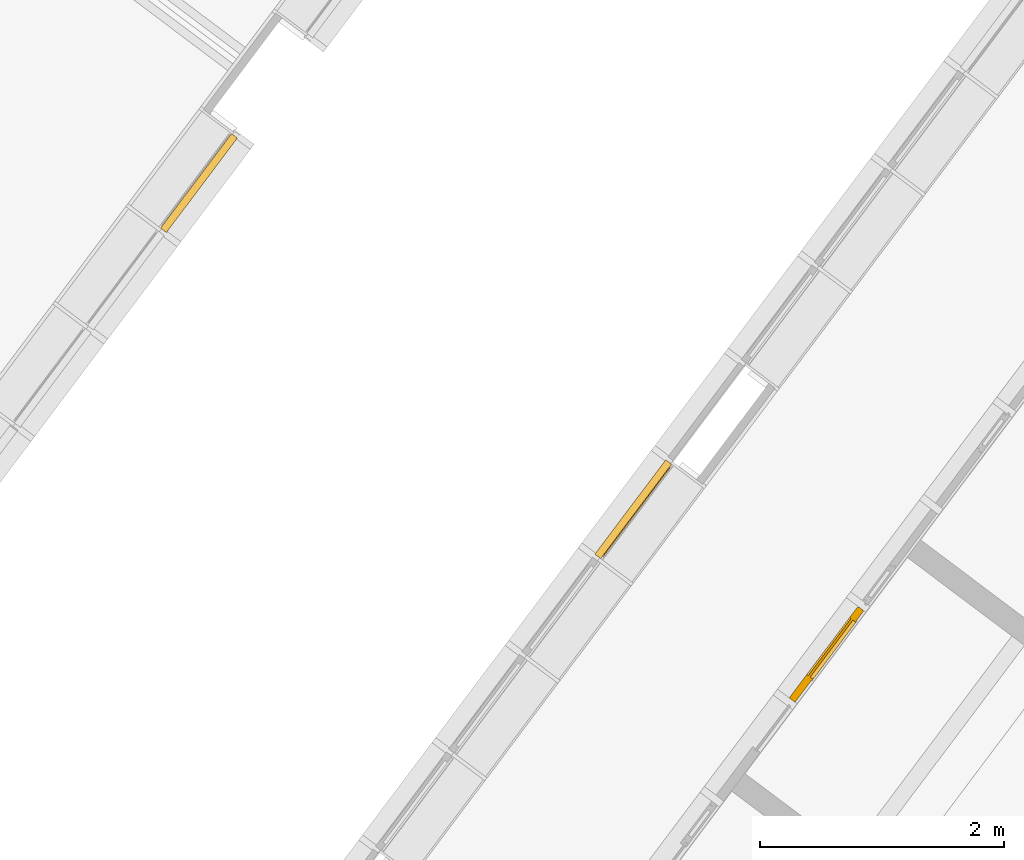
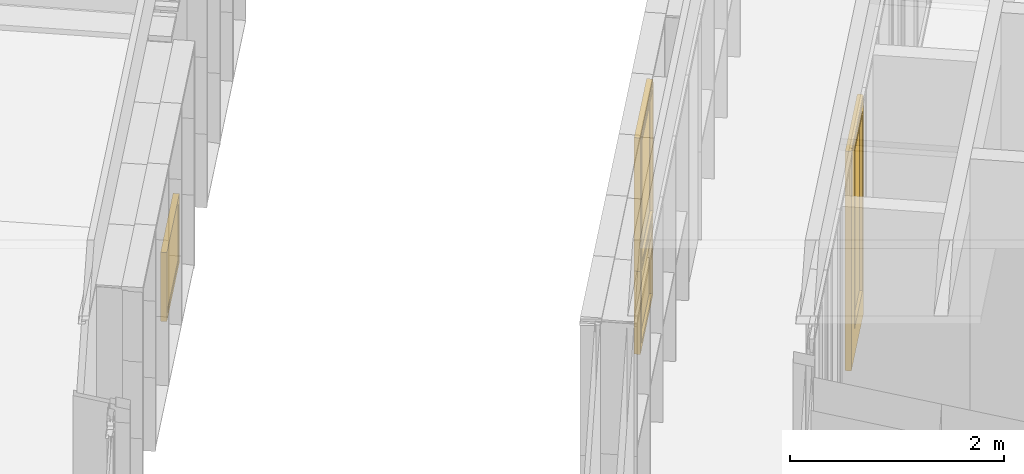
# One storey, part 164 of 243: 3 windows, 1 door, 3 elements without a shape of their own.
"""IFC2X3 building model written with IfcOpenShell, lengths in metres."""

from ifc_helpers import new_model, entity, si_unit, converted_unit, derived_unit, direction, frame, origin, place, context, subcontext, project, spatial, faceted_brep, source, transform, mapped, material, material_list, type_object, type_shapes, element, aggregate, save


model = new_model("IFC2X3")

# Units and contexts
model_context = context("Model", 3, precision=1e-05, world=origin(), true_north=direction((6.123031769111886e-17, 1.0)))
body_context = subcontext(model_context, "Body", "Model", "MODEL_VIEW")
ifc_project = project(units=[si_unit("LENGTHUNIT", "METRE"), si_unit("AREAUNIT", "SQUARE_METRE"), si_unit("VOLUMEUNIT", "CUBIC_METRE"), converted_unit("PLANEANGLEUNIT", "DEGREE", entity("IfcRatioMeasure", 0.017453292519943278), si_unit("PLANEANGLEUNIT", "RADIAN"), dimensions=[0, 0, 0, 0, 0, 0, 0]), si_unit("MASSUNIT", "GRAM", prefix="KILO"), derived_unit("MASSDENSITYUNIT", [(si_unit("MASSUNIT", "GRAM", prefix="KILO"), 1), (si_unit("LENGTHUNIT", "METRE"), -3)]), derived_unit("IONCONCENTRATIONUNIT", [(si_unit("MASSUNIT", "GRAM", prefix="KILO"), 1), (si_unit("LENGTHUNIT", "METRE"), -3)]), derived_unit("MOMENTOFINERTIAUNIT", [(si_unit("LENGTHUNIT", "METRE"), 4)]), si_unit("TIMEUNIT", "SECOND"), si_unit("FREQUENCYUNIT", "HERTZ"), si_unit("THERMODYNAMICTEMPERATUREUNIT", "DEGREE_CELSIUS"), derived_unit("THERMALTRANSMITTANCEUNIT", [(si_unit("MASSUNIT", "GRAM", prefix="KILO"), 1), (si_unit("THERMODYNAMICTEMPERATUREUNIT", "KELVIN"), -1), (si_unit("TIMEUNIT", "SECOND"), -3)]), derived_unit("THERMALCONDUCTANCEUNIT", [(si_unit("MASSUNIT", "GRAM", prefix="KILO"), 1), (si_unit("THERMODYNAMICTEMPERATUREUNIT", "KELVIN"), -1), (si_unit("TIMEUNIT", "SECOND"), -3), (si_unit("LENGTHUNIT", "METRE"), 1)]), derived_unit("VOLUMETRICFLOWRATEUNIT", [(si_unit("LENGTHUNIT", "METRE"), 3), (si_unit("TIMEUNIT", "SECOND"), -1)]), derived_unit("MASSFLOWRATEUNIT", [(si_unit("MASSUNIT", "GRAM", prefix="KILO"), 1), (si_unit("TIMEUNIT", "SECOND"), -1)]), derived_unit("ROTATIONALFREQUENCYUNIT", [(si_unit("TIMEUNIT", "SECOND"), -1)]), si_unit("ELECTRICCURRENTUNIT", "AMPERE"), si_unit("ELECTRICVOLTAGEUNIT", "VOLT"), si_unit("POWERUNIT", "WATT"), si_unit("FORCEUNIT", "NEWTON", prefix="KILO"), si_unit("ILLUMINANCEUNIT", "LUX"), si_unit("LUMINOUSFLUXUNIT", "LUMEN"), si_unit("LUMINOUSINTENSITYUNIT", "CANDELA"), derived_unit("USERDEFINED", [(si_unit("MASSUNIT", "GRAM", prefix="KILO"), -1), (si_unit("LENGTHUNIT", "METRE"), -2), (si_unit("TIMEUNIT", "SECOND"), 3), (si_unit("LUMINOUSFLUXUNIT", "LUMEN"), 1)]), derived_unit("USERDEFINED", [(si_unit("MASSUNIT", "GRAM", prefix="KILO"), 1), (si_unit("TIMEUNIT", "SECOND"), -3), (si_unit("LENGTHUNIT", "METRE"), 3), (si_unit("ELECTRICCURRENTUNIT", "AMPERE"), -2)]), derived_unit("SOUNDPOWERUNIT", [(si_unit("MASSUNIT", "GRAM", prefix="KILO"), 1), (si_unit("TIMEUNIT", "SECOND"), -3), (si_unit("LENGTHUNIT", "METRE"), 2)]), derived_unit("SOUNDPRESSUREUNIT", [(si_unit("MASSUNIT", "GRAM", prefix="KILO"), 1), (si_unit("LENGTHUNIT", "METRE"), -1), (si_unit("TIMEUNIT", "SECOND"), -2)]), derived_unit("LINEARVELOCITYUNIT", [(si_unit("LENGTHUNIT", "METRE"), 1), (si_unit("TIMEUNIT", "SECOND"), -1)]), si_unit("PRESSUREUNIT", "PASCAL"), derived_unit("USERDEFINED", [(si_unit("MASSUNIT", "GRAM", prefix="KILO"), 1), (si_unit("LENGTHUNIT", "METRE"), -2), (si_unit("TIMEUNIT", "SECOND"), -2)]), derived_unit("LINEARFORCEUNIT", [(si_unit("MASSUNIT", "GRAM", prefix="KILO"), 1), (si_unit("TIMEUNIT", "SECOND"), -2)]), derived_unit("PLANARFORCEUNIT", [(si_unit("MASSUNIT", "GRAM", prefix="KILO"), 1), (si_unit("LENGTHUNIT", "METRE"), -1), (si_unit("TIMEUNIT", "SECOND"), -2)]), derived_unit("SPECIFICHEATCAPACITYUNIT", [(si_unit("THERMODYNAMICTEMPERATUREUNIT", "KELVIN"), -1), (si_unit("LENGTHUNIT", "METRE"), 2), (si_unit("TIMEUNIT", "SECOND"), -2)]), derived_unit("HEATINGVALUEUNIT", [(si_unit("LENGTHUNIT", "METRE"), 2), (si_unit("TIMEUNIT", "SECOND"), -2)]), derived_unit("VAPORPERMEABILITYUNIT", [(si_unit("LENGTHUNIT", "METRE"), -1), (si_unit("TIMEUNIT", "SECOND"), 1)]), derived_unit("DYNAMICVISCOSITYUNIT", [(si_unit("MASSUNIT", "GRAM", prefix="KILO"), 1), (si_unit("TIMEUNIT", "SECOND"), -1), (si_unit("LENGTHUNIT", "METRE"), -1)]), derived_unit("THERMALEXPANSIONCOEFFICIENTUNIT", [(si_unit("THERMODYNAMICTEMPERATUREUNIT", "KELVIN"), -1)]), derived_unit("MODULUSOFELASTICITYUNIT", [(si_unit("MASSUNIT", "GRAM", prefix="KILO"), 1), (si_unit("LENGTHUNIT", "METRE"), -1), (si_unit("TIMEUNIT", "SECOND"), -2)]), derived_unit("ISOTHERMALMOISTURECAPACITYUNIT", [(si_unit("LENGTHUNIT", "METRE"), 3), (si_unit("MASSUNIT", "GRAM", prefix="KILO"), -1)]), derived_unit("MOISTUREDIFFUSIVITYUNIT", [(si_unit("TIMEUNIT", "SECOND"), -1), (si_unit("LENGTHUNIT", "METRE"), 2)])], contexts=[model_context])

# Site, building, storey
site_placement = place(None, frame((0.0, 0.0, 235.0), z_axis=(0.0, 0.0, 1.0), x_axis=(-0.7996477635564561, 0.6004693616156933, 0.0)))
site = spatial("IfcSite", under=ifc_project, at=site_placement, Name="Default", CompositionType="ELEMENT")
building_placement = place(site_placement, origin())
building = spatial("IfcBuilding", under=site, at=building_placement, CompositionType="ELEMENT")
storey_placement = place(building_placement, origin())
storey = spatial("IfcBuildingStorey", under=building, at=storey_placement, Name="P0- Escola", CompositionType="ELEMENT", Elevation=0.0)

# Curtain wall, door
curtain_wall_type_1 = type_object("IfcCurtainWallType", Name="Muro cortina:MC- INT- a2", PredefinedType="NOTDEFINED")
curtain_wall_1_placement = place(storey_placement, origin())
curtain_wall_1 = element("IfcCurtainWall", 1, at=curtain_wall_1_placement, inside=storey, type_object=curtain_wall_type_1, Name="Muro cortina:MC- INT- a2", ObjectType="Muro cortina:MC- INT- a2")
ifc_material_1 = material(Name="_Fusta massisa- T1")
ifc_material_2 = material(Name="_Vidre")
ifc_material_list_1 = material_list([ifc_material_1, ifc_material_2])
door_style = type_object("IfcDoorStyle", Name="MC- Fusta- conjunt porta:MC- Fusta- conjunt Porta aules", ConstructionType="NOTDEFINED", OperationType="NOTDEFINED", ParameterTakesPrecedence=False, Sizeable=False, material=ifc_material_list_1)
shared_shape_1 = source(origin(), body_context, "Body", "Brep", [
    faceted_brep([(-0.24500000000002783, -0.024999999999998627, 2.3799999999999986), (-0.24500000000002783, 0.0050000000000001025, 2.3799999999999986), (-0.24500000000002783, 0.0050000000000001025, 0.3299999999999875), (-0.24500000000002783, -0.024999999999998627, 0.3299999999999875), (0.3700000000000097, 0.0050000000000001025, 0.3299999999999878), (0.3700000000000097, -0.024999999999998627, 0.3299999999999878), (0.37000000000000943, 0.0050000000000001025, 2.3799999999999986), (0.37000000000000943, -0.024999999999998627, 2.3799999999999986), (-0.23000000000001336, 0.0050000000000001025, 2.3650000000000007), (-0.23000000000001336, 0.0050000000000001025, 0.34499999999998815), (0.35499999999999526, 0.0050000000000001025, 0.3449999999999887), (0.35499999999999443, 0.0050000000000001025, 2.3650000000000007), (-0.23000000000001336, -0.024999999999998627, 2.3650000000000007), (0.35499999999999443, -0.024999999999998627, 2.3650000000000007), (0.35499999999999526, -0.024999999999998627, 0.3449999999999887), (-0.23000000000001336, -0.024999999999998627, 0.34499999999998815)], [[[0, 1, 2, 3]], [[3, 2, 4, 5]], [[5, 4, 6, 7]], [[8, 9, 10, 11], [1, 6, 4, 2]], [[12, 13, 14, 15], [0, 3, 5, 7]], [[15, 9, 8, 12]], [[14, 10, 9, 15]], [[13, 11, 10, 14]], [[7, 6, 1, 0]], [[12, 8, 11, 13]]], outer=[[True], [True], [True], [False, True], [False, True], [True], [True], [True], [True], [True]]),
    faceted_brep([(-0.43999999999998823, 0.03999999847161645, 0.0), (0.43999999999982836, 0.039999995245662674, 0.0), (0.43999999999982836, 0.009999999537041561, 0.0), (0.45499999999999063, 0.009999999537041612, 0.0), (0.45499999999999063, -0.019999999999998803, 0.0), (-0.4550000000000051, -0.01999999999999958, 0.0), (-0.4550000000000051, 0.0099999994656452, 0.0), (-0.43999999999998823, 0.0099999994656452, 0.0), (-0.4550000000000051, -0.01999999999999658, 2.4899999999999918), (0.45499999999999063, -0.01999999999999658, 2.4899999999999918), (-0.24500000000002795, -0.019999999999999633, 0.3300000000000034), (-0.24500000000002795, -0.01999999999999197, 2.3799999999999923), (0.37000000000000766, -0.019999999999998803, 2.3799999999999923), (0.37000000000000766, -0.019999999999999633, 0.3300000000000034), (-0.45500000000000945, 0.0099999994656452, 2.4899999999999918), (0.45499999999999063, 0.0099999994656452, 2.4899999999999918), (-0.43999999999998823, 0.03999999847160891, 2.4749999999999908), (-0.43999999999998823, 0.0099999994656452, 2.4749999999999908), (0.43999999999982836, 0.0099999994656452, 2.4749999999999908), (0.43999999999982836, 0.039999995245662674, 2.4749999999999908), (0.3549999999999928, 0.03999999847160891, 0.3450000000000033), (0.3549999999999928, 0.03999999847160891, 2.364999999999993), (-0.2300000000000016, 0.039999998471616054, 2.364999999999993), (-0.2300000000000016, 0.03999999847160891, 0.3450000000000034), (-0.2300000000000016, 0.025000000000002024, 0.3450000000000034), (0.3549999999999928, 0.025000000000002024, 0.3450000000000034), (-0.2300000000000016, 0.025000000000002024, 2.364999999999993), (0.3549999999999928, 0.024999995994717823, 2.364999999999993), (0.37000000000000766, 0.025000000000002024, 0.3300000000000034), (0.37000000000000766, 0.025000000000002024, 2.3799999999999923), (-0.24500000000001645, 0.025000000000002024, 2.3799999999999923), (-0.24500000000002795, 0.025000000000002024, 0.3300000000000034), (-0.24500000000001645, 0.024999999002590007, 0.3300000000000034), (-0.24500000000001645, 0.024999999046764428, 2.3799999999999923), (0.3549999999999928, 0.03999999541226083, 2.364999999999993), (-0.2300000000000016, 0.024999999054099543, 2.364999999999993), (0.37000000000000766, 0.02499999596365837, 2.3799999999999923)], [[[0, 1, 2, 3, 4, 5, 6, 7]], [[8, 5, 4, 9], [10, 11, 12, 13]], [[8, 14, 6, 5]], [[15, 9, 4, 3]], [[16, 0, 7, 17]], [[14, 15, 3, 2, 18, 17, 7, 6]], [[18, 2, 1, 19]], [[20, 21, 22, 23], [16, 19, 1, 0]], [[23, 24, 25, 20]], [[23, 22, 26, 24]], [[25, 27, 21, 20]], [[24, 26, 27, 25], [28, 29, 30, 31]], [[13, 28, 32, 10]], [[31, 33, 11, 10]], [[13, 12, 29, 28]], [[9, 15, 14, 8]], [[17, 18, 19, 16]], [[34, 27, 35, 22]], [[11, 30, 36, 12]]], outer=[[True], [True, False], [True], [True], [True], [True], [True], [False, True], [True], [True], [True], [False, True], [True], [True], [True], [True], [True], [True], [True]]),
    faceted_brep([(0.37000000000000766, 0.024999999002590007, 0.3300000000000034), (0.37000000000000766, 0.0050000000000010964, 0.3300000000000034), (-0.2450000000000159, 0.0050000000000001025, 0.3300000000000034), (-0.2450000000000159, 0.024999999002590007, 0.3300000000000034), (0.37000000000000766, 0.024999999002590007, 2.380000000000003), (-0.2450000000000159, 0.024999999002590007, 2.380000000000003), (-0.2450000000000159, 0.0050000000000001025, 2.380000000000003), (0.37000000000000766, 0.0050000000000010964, 2.380000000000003)], [[[0, 1, 2, 3]], [[4, 0, 3, 5]], [[5, 3, 2, 6]], [[6, 2, 1, 7]], [[7, 1, 0, 4]], [[4, 5, 6, 7]]]),
    faceted_brep([(-0.46500000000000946, -0.01999999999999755, 0.0), (-0.46500000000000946, -0.015999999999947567, 0.0), (-0.469999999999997, -0.015999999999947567, 0.0), (-0.469999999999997, 0.03600000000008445, 0.0), (-0.46500000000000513, 0.03600000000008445, 0.0), (-0.46500000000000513, 0.0400000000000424, 0.0), (-0.44000000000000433, 0.0400000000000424, 0.0), (-0.44000000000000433, 0.010000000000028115, 0.0), (-0.4550000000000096, 0.010000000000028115, 0.0), (-0.4550000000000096, -0.01999999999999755, 0.0), (-0.45500000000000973, -0.01999999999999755, 2.4900000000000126), (0.45500000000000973, -0.01999999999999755, 2.4900000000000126), (0.45500000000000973, -0.01999999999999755, 0.0), (0.46500000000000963, -0.01999999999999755, 0.0), (0.46500000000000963, -0.01999999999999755, 2.5000000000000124), (-0.4650000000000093, -0.01999999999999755, 2.500000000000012), (-0.4550000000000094, 0.010000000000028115, 2.4900000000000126), (-0.4400000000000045, 0.010000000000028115, 2.4750000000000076), (0.4400000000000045, 0.010000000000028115, 2.4750000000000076), (0.4400000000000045, 0.010000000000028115, 0.0), (0.45500000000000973, 0.010000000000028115, 0.0), (0.45500000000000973, 0.010000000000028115, 2.4900000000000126), (-0.4400000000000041, 0.0400000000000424, 2.4750000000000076), (-0.4650000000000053, 0.0400000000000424, 2.5000000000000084), (0.4650000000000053, 0.0400000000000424, 2.5000000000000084), (0.4650000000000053, 0.0400000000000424, 0.0), (0.4400000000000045, 0.0400000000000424, 0.0), (0.4400000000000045, 0.0400000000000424, 2.4750000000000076), (-0.46500000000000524, 0.03600000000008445, 2.5000000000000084), (-0.4699999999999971, 0.03600000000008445, 2.5050000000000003), (0.4699999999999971, 0.03600000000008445, 2.5050000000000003), (0.4699999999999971, 0.03600000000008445, 0.0), (0.4650000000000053, 0.03600000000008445, 0.0), (0.4650000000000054, 0.03600000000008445, 2.5000000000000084), (-0.46999999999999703, -0.015999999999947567, 2.5050000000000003), (-0.46500000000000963, -0.015999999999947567, 2.5000000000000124), (0.46500000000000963, -0.015999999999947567, 2.5000000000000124), (0.46500000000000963, -0.015999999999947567, 0.0), (0.4699999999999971, -0.015999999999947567, 0.0), (0.46999999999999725, -0.015999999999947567, 2.5050000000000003)], [[[0, 1, 2, 3, 4, 5, 6, 7, 8, 9]], [[9, 10, 11, 12, 13, 14, 15, 0]], [[8, 16, 10, 9]], [[7, 17, 18, 19, 20, 21, 16, 8]], [[6, 22, 17, 7]], [[5, 23, 24, 25, 26, 27, 22, 6]], [[4, 28, 23, 5]], [[3, 29, 30, 31, 32, 33, 28, 4]], [[2, 34, 29, 3]], [[1, 35, 36, 37, 38, 39, 34, 2]], [[0, 15, 35, 1]], [[14, 13, 37, 36]], [[13, 12, 20, 19, 26, 25, 32, 31, 38, 37]], [[21, 20, 12, 11]], [[27, 26, 19, 18]], [[33, 32, 25, 24]], [[39, 38, 31, 30]], [[16, 21, 11, 10]], [[22, 27, 18, 17]], [[28, 33, 24, 23]], [[34, 39, 30, 29]], [[15, 14, 36, 35]]]),
])
type_shapes(door_style, [shared_shape_1])
door_placement = place(curtain_wall_1_placement, frame((34.620147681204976, -28.915191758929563, 0.0), z_axis=(0.0, 0.0, 1.0), x_axis=(0.0, -1.0, 0.0)))
door = element("IfcDoor", 2, at=door_placement, type_object=door_style, material=ifc_material_list_1, Name="MC- Fusta- conjunt porta:MC- Fusta- conjunt Porta aules", ObjectType="MC- Fusta- conjunt porta:MC- Fusta- conjunt Porta aules", OverallHeight=2.5050000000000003, OverallWidth=0.9399999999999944, context=body_context, shape_type="MappedRepresentation", body=[
    mapped(shared_shape_1, transform((0.0, 0.0, 0.0), scale=1.0)),
])
aggregate(curtain_wall_1, [door])

# Curtain wall, window
curtain_wall_type_2 = type_object("IfcCurtainWallType", Name="Muro cortina:MC- EXT- MC2", PredefinedType="NOTDEFINED")
curtain_wall_2_placement = place(storey_placement, origin())
curtain_wall_2 = element("IfcCurtainWall", 3, at=curtain_wall_2_placement, inside=storey, type_object=curtain_wall_type_2, Name="Muro cortina:MC- EXT- MC2", ObjectType="Muro cortina:MC- EXT- MC2")
ifc_material_3 = material(Name="_Alumini- T1- Perfil")
ifc_material_list_2 = material_list([ifc_material_2, ifc_material_3])
window_style_1 = type_object("IfcWindowStyle", Name="MC- Alu- Conjunt vidre fix- 62x60 cm:MC- Alu- Conjunt vidre fix- 62x60 cm", ConstructionType="NOTDEFINED", OperationType="NOTDEFINED", ParameterTakesPrecedence=False, Sizeable=False, material=ifc_material_list_2)
shared_shape_2 = source(origin(), body_context, "Body", "Brep", [
    faceted_brep([(0.4361932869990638, -0.007600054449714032, 0.048806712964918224), (0.4361932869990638, -0.03160022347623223, 0.048806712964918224), (-0.4361932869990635, -0.03160022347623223, 0.048806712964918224), (-0.4361932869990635, -0.007600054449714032, 0.048806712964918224), (0.4361932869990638, -0.007600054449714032, 0.7387000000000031), (-0.4361932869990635, -0.007600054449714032, 0.7387000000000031), (-0.4361932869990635, -0.03160022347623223, 0.7387000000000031), (0.4361932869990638, -0.03160022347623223, 0.7387000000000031)], [[[0, 1, 2, 3]], [[4, 0, 3, 5]], [[5, 3, 2, 6]], [[6, 2, 1, 7]], [[7, 1, 0, 4]], [[4, 5, 6, 7]]]),
    faceted_brep([(0.48499999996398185, -0.05999999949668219, 0.7877000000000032), (0.48499999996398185, -0.05999999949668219, 0.0), (0.48499999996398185, 0.0, 0.0), (0.48499999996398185, 0.0, 0.787700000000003), (-0.48499999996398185, 0.0, 0.7877000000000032), (-0.48499999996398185, 0.0, 0.0), (0.4221931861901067, 0.0, 0.7248931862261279), (-0.42219318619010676, 0.0, 0.724893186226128), (-0.4221931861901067, 0.0, 0.0628068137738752), (0.4221931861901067, 0.0, 0.06280681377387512), (-0.48499999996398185, -0.05999999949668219, 0.0), (-0.48499999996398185, -0.05999999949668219, 0.7877000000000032), (-0.42219603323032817, -0.05999999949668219, 0.7248960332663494), (0.42219603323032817, -0.05999999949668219, 0.7248960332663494), (0.42219603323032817, -0.05999999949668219, 0.0628039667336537), (-0.42219603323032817, -0.05999999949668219, 0.0628039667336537), (0.4221960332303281, -0.03160022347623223, 0.7248960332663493), (0.42219603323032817, -0.03160022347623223, 0.0628039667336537), (-0.42219603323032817, -0.03160022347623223, 0.06280396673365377), (-0.42219603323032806, -0.03160022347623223, 0.7248960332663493), (-0.43619328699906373, -0.03160022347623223, 0.738893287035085), (0.43619328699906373, -0.03160022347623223, 0.738893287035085), (0.43619328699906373, -0.03160022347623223, 0.048806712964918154), (-0.43619328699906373, -0.03160022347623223, 0.04880671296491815), (0.43619328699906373, -0.007600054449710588, 0.738893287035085), (0.43619328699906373, -0.007600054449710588, 0.04880671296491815), (-0.43619328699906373, -0.007600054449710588, 0.048806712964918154), (-0.43619328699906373, -0.007600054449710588, 0.738893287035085), (-0.42219318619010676, -0.007600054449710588, 0.724893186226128), (0.42219318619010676, -0.007600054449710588, 0.724893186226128), (0.42219318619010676, -0.007600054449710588, 0.06280681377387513), (-0.42219318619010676, -0.007600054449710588, 0.06280681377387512)], [[[0, 1, 2, 3]], [[4, 3, 2, 5], [6, 7, 8, 9]], [[1, 10, 5, 2]], [[0, 11, 10, 1], [12, 13, 14, 15]], [[16, 17, 14, 13]], [[17, 18, 15, 14]], [[16, 19, 18, 17], [20, 21, 22, 23]], [[24, 25, 22, 21]], [[25, 26, 23, 22]], [[24, 27, 26, 25], [28, 29, 30, 31]], [[6, 9, 30, 29]], [[9, 8, 31, 30]], [[10, 11, 4, 5]], [[18, 19, 12, 15]], [[26, 27, 20, 23]], [[8, 7, 28, 31]], [[11, 0, 3, 4]], [[19, 16, 13, 12]], [[27, 24, 21, 20]], [[7, 6, 29, 28]]], outer=[[True], [True, False], [True], [True, False], [True], [True], [False, True], [True], [True], [True, False], [True], [True], [True], [True], [True], [True], [True], [True], [True], [True]]),
])
type_shapes(window_style_1, [shared_shape_2])
window_1_placement = place(curtain_wall_2_placement, frame((41.04514768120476, -28.915191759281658, 0.03229999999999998), z_axis=(0.0, 0.0, 1.0), x_axis=(0.0, 1.0, 0.0)))
window_1 = element("IfcWindow", 4, at=window_1_placement, type_object=window_style_1, material=ifc_material_list_2, Name="MC- Alu- Conjunt vidre fix- 62x60 cm:MC- Alu- Conjunt vidre fix- 62x60 cm", ObjectType="MC- Alu- Conjunt vidre fix- 62x60 cm:MC- Alu- Conjunt vidre fix- 62x60 cm", OverallHeight=0.7877000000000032, OverallWidth=0.9699999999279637, context=body_context, shape_type="MappedRepresentation", body=[
    mapped(shared_shape_2, transform((0.0, 0.0, 0.0), scale=1.0)),
])
aggregate(curtain_wall_2, [window_1])

# Curtain wall, windows
curtain_wall_type_3 = type_object("IfcCurtainWallType", Name="Muro cortina:MC- EXT- MC5", PredefinedType="NOTDEFINED")
curtain_wall_3_placement = place(storey_placement, origin())
curtain_wall_3 = element("IfcCurtainWall", 5, at=curtain_wall_3_placement, inside=storey, type_object=curtain_wall_type_3, Name="Muro cortina:MC- EXT- MC5", ObjectType="Muro cortina:MC- EXT- MC5")
window_style_2 = type_object("IfcWindowStyle", Name="MC- Alu- Conjunt vidre fix- 62x60 cm:MC- Alu- Conjunt vidre fix- 62x60 cm", ConstructionType="NOTDEFINED", OperationType="NOTDEFINED", ParameterTakesPrecedence=False, Sizeable=False, material=ifc_material_list_2)
shared_shape_3 = source(origin(), body_context, "Body", "Brep", [
    faceted_brep([(-0.4361932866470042, -0.007600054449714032, 0.048806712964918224), (0.4361932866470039, -0.007600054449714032, 0.048806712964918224), (0.4361932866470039, -0.03160022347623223, 0.048806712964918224), (-0.4361932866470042, -0.03160022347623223, 0.048806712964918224), (-0.4361932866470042, -0.007600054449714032, 0.8987), (0.4361932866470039, -0.007600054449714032, 0.8987), (0.4361932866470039, -0.03160022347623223, 0.8987), (-0.4361932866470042, -0.03160022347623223, 0.8987)], [[[0, 1, 2, 3]], [[4, 5, 1, 0]], [[5, 6, 2, 1]], [[6, 7, 3, 2]], [[7, 4, 0, 3]], [[4, 7, 6, 5]]]),
    faceted_brep([(-0.4849999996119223, -0.05999999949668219, 0.9477000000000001), (-0.4849999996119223, 0.0, 0.9477000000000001), (-0.4849999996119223, 0.0, 0.0), (-0.4849999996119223, -0.05999999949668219, 0.0), (-0.4221931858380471, 0.0, 0.8848931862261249), (-0.4221931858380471, 0.0, 0.06280681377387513), (0.42219318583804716, 0.0, 0.06280681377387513), (0.42219318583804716, 0.0, 0.8848931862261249), (0.4849999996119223, 0.0, 0.9477000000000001), (0.4849999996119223, 0.0, 0.0), (0.4849999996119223, -0.05999999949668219, 0.0), (0.4849999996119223, -0.05999999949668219, 0.9477000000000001), (0.42219603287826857, -0.05999999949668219, 0.8848960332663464), (0.42219603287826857, -0.05999999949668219, 0.0628039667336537), (-0.42219603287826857, -0.05999999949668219, 0.0628039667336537), (-0.42219603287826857, -0.05999999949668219, 0.8848960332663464), (-0.42219603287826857, -0.03160022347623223, 0.8848960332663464), (-0.4221960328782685, -0.03160022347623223, 0.0628039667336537), (0.4221960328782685, -0.03160022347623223, 0.06280396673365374), (0.42219603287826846, -0.03160022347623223, 0.8848960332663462), (0.43619328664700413, -0.03160022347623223, 0.8988932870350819), (0.43619328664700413, -0.03160022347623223, 0.048806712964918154), (-0.43619328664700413, -0.03160022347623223, 0.04880671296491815), (-0.43619328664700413, -0.03160022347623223, 0.8988932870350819), (-0.43619328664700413, -0.007600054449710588, 0.8988932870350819), (-0.43619328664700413, -0.007600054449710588, 0.04880671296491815), (0.43619328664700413, -0.007600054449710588, 0.048806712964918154), (0.43619328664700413, -0.007600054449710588, 0.8988932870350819), (0.42219318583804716, -0.007600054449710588, 0.8848931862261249), (0.42219318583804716, -0.007600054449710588, 0.0628068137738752), (-0.42219318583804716, -0.007600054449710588, 0.06280681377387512), (-0.42219318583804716, -0.007600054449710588, 0.8848931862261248)], [[[0, 1, 2, 3]], [[4, 5, 6, 7], [8, 9, 2, 1]], [[3, 2, 9, 10]], [[0, 3, 10, 11], [12, 13, 14, 15]], [[16, 15, 14, 17]], [[17, 14, 13, 18]], [[16, 17, 18, 19], [20, 21, 22, 23]], [[24, 23, 22, 25]], [[25, 22, 21, 26]], [[24, 25, 26, 27], [28, 29, 30, 31]], [[4, 31, 30, 5]], [[5, 30, 29, 6]], [[10, 9, 8, 11]], [[18, 13, 12, 19]], [[26, 21, 20, 27]], [[6, 29, 28, 7]], [[11, 8, 1, 0]], [[19, 12, 15, 16]], [[27, 20, 23, 24]], [[7, 28, 31, 4]]], outer=[[True], [False, True], [True], [True, False], [True], [True], [False, True], [True], [True], [True, False], [True], [True], [True], [True], [True], [True], [True], [True], [True], [True]]),
])
type_shapes(window_style_2, [shared_shape_3])
window_2_placement = place(curtain_wall_3_placement, frame((36.645147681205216, -28.915191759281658, 0.03229999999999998), z_axis=(0.0, 0.0, 1.0), x_axis=(0.0, -1.0, 0.0)))
window_2 = element("IfcWindow", 6, at=window_2_placement, type_object=window_style_2, material=ifc_material_list_2, Name="MC- Alu- Conjunt vidre fix- 62x60 cm:MC- Alu- Conjunt vidre fix- 62x60 cm", ObjectType="MC- Alu- Conjunt vidre fix- 62x60 cm:MC- Alu- Conjunt vidre fix- 62x60 cm", OverallHeight=0.9477000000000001, OverallWidth=0.9699999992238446, context=body_context, shape_type="MappedRepresentation", body=[
    mapped(shared_shape_3, transform((0.0, 0.0, 0.0), scale=1.0)),
])
window_style_3 = type_object("IfcWindowStyle", Name="MC- Alu- Conjunt finestra basculant- 68x68 cm:MC- Alu- Conjunt finestra basculant- 68x68 cm", ConstructionType="NOTDEFINED", OperationType="NOTDEFINED", ParameterTakesPrecedence=False, Sizeable=False, material=ifc_material_list_2)
shared_shape_4 = source(origin(), body_context, "Body", "Brep", [
    faceted_brep([(-0.4329117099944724, -0.03559830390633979, 0.051999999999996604), (-0.43291170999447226, -0.011598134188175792, 0.051999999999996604), (0.4329117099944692, -0.011598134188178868, 0.051999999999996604), (0.43291170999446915, -0.03559830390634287, 0.051999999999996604), (-0.4329117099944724, -0.03559830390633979, 1.4715527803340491), (-0.4329117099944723, -0.011598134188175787, 1.4715527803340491), (0.4329117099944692, -0.011598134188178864, 1.4715527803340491), (0.43291170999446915, -0.03559830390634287, 1.4715527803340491)], [[[0, 1, 2, 3]], [[4, 5, 1, 0]], [[5, 6, 2, 1]], [[6, 7, 3, 2]], [[7, 4, 0, 3]], [[4, 7, 6, 5]]]),
    faceted_brep([(0.4172108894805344, -0.009998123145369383, 1.4558519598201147), (0.4172108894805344, -0.007998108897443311, 1.4558519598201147), (0.4172108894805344, -0.007998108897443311, 0.06789804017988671), (0.41721088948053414, -0.009998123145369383, 0.06789804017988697), (0.44610892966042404, -0.007998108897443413, 1.4847500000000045), (0.44610892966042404, -0.007998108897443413, 0.03899999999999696), (-0.44610892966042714, -0.007998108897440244, 0.03899999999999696), (-0.44610892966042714, -0.007998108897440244, 1.4847500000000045), (-0.41721088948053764, -0.007998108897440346, 1.4558519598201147), (-0.41721088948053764, -0.007998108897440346, 0.06789804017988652), (-0.41721088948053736, -0.009998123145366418, 0.06789804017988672), (-0.41721088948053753, -0.009998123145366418, 1.4558519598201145), (-0.4329117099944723, -0.00999812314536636, 1.4715527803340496), (-0.4329117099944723, -0.009998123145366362, 0.05219721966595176), (0.4329117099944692, -0.009998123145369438, 0.05219721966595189), (0.4329117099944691, -0.009998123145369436, 1.4715527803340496), (0.4329117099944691, -0.04079986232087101, 1.4715527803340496), (0.4329117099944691, -0.04079986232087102, 0.05219721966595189), (-0.4329117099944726, -0.04079986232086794, 0.05219721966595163), (-0.4329117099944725, -0.04079986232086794, 1.4715527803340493), (-0.4172108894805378, -0.040799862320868, 1.4558519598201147), (-0.4172108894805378, -0.040799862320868, 0.06789804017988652), (0.41721088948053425, -0.04079986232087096, 0.06789804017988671), (0.41721088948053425, -0.04079986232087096, 1.4558519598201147), (0.41721088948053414, -0.06800005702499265, 1.4558519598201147), (0.4172108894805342, -0.06800005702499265, 0.06789804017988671), (-0.41721088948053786, -0.0680000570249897, 0.06789804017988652), (-0.41721088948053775, -0.0680000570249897, 1.4558519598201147), (-0.4636128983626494, -0.06800005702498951, 1.5022539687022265), (-0.4636128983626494, -0.06800005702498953, 0.021496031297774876), (0.4636128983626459, -0.06800005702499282, 0.021496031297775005), (0.4636128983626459, -0.06800005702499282, 1.5022539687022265), (0.4636128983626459, -0.0645000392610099, 1.5022539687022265), (0.4636128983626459, -0.0645000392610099, 0.021496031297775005), (-0.4636128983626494, -0.06450003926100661, 0.021496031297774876), (-0.4636128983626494, -0.06450003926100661, 1.5022539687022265), (-0.44610892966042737, -0.06450003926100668, 1.4847500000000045), (-0.44610892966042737, -0.06450003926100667, 0.03899999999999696), (0.4461089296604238, -0.06450003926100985, 0.03899999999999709), (0.4461089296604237, -0.06450003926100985, 1.4847500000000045)], [[[0, 1, 2, 3]], [[4, 5, 6, 7], [8, 9, 2, 1]], [[3, 2, 9, 10]], [[0, 3, 10, 11], [12, 13, 14, 15]], [[16, 15, 14, 17]], [[17, 14, 13, 18]], [[16, 17, 18, 19], [20, 21, 22, 23]], [[24, 23, 22, 25]], [[25, 22, 21, 26]], [[24, 25, 26, 27], [28, 29, 30, 31]], [[32, 31, 30, 33]], [[33, 30, 29, 34]], [[32, 33, 34, 35], [36, 37, 38, 39]], [[4, 39, 38, 5]], [[5, 38, 37, 6]], [[10, 9, 8, 11]], [[18, 13, 12, 19]], [[26, 21, 20, 27]], [[34, 29, 28, 35]], [[6, 37, 36, 7]], [[11, 8, 1, 0]], [[19, 12, 15, 16]], [[27, 20, 23, 24]], [[35, 28, 31, 32]], [[7, 36, 39, 4]]], outer=[[True], [True, False], [True], [False, True], [True], [True], [True, False], [True], [True], [False, True], [True], [True], [True, False], [True], [True], [True], [True], [True], [True], [True], [True], [True], [True], [True], [True]]),
    faceted_brep([(-0.4221931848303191, 0.0, 1.4609431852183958), (-0.4221931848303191, -0.0040000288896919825, 1.4609431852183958), (-0.4221931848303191, -0.0040000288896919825, 0.06280681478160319), (-0.42219318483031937, 0.0, 0.06280681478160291), (-0.457599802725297, -0.0040000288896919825, 1.4963498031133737), (-0.457599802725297, -0.0040000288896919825, 0.02740019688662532), (0.457599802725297, -0.0040000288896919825, 0.02740019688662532), (0.457599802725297, -0.0040000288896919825, 1.4963498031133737), (0.422193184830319, -0.0040000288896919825, 1.4609431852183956), (0.4221931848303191, -0.0040000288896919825, 0.06280681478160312), (0.42219318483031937, 0.0, 0.06280681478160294), (0.4221931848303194, 0.0, 1.460943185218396), (0.4849999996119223, 0.0, 1.523749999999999), (0.4849999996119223, 0.0, 0.0), (-0.4849999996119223, 0.0, 0.0), (-0.4849999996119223, 0.0, 1.523749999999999), (-0.4849999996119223, -0.05999999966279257, 1.523749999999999), (-0.4849999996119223, -0.05999999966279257, 0.0), (0.4849999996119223, -0.05999999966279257, 0.0), (0.4849999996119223, -0.05999999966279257, 1.523749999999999), (0.4575998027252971, -0.05999999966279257, 1.4963498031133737), (0.4575998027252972, -0.05999999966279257, 0.027400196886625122), (-0.4575998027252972, -0.05999999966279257, 0.027400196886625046), (-0.4575998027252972, -0.05999999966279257, 1.496349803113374)], [[[0, 1, 2, 3]], [[4, 5, 6, 7], [8, 9, 2, 1]], [[3, 2, 9, 10]], [[0, 3, 10, 11], [12, 13, 14, 15]], [[16, 15, 14, 17]], [[17, 14, 13, 18]], [[16, 17, 18, 19], [20, 21, 22, 23]], [[4, 23, 22, 5]], [[5, 22, 21, 6]], [[10, 9, 8, 11]], [[18, 13, 12, 19]], [[6, 21, 20, 7]], [[11, 8, 1, 0]], [[19, 12, 15, 16]], [[7, 20, 23, 4]]], outer=[[True], [True, False], [True], [False, True], [True], [True], [True, False], [True], [True], [True], [True], [True], [True], [True], [True]]),
])
type_shapes(window_style_3, [shared_shape_4])
window_3_placement = place(curtain_wall_3_placement, frame((36.645147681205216, -28.915191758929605, 0.98), z_axis=(0.0, 0.0, 1.0), x_axis=(0.0, -1.0, 0.0)))
window_3 = element("IfcWindow", 7, at=window_3_placement, type_object=window_style_3, material=ifc_material_list_2, Name="MC- Alu- Conjunt finestra basculant- 68x68 cm:MC- Alu- Conjunt finestra basculant- 68x68 cm", ObjectType="MC- Alu- Conjunt finestra basculant- 68x68 cm:MC- Alu- Conjunt finestra basculant- 68x68 cm", OverallHeight=1.523749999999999, OverallWidth=0.9699999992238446, context=body_context, shape_type="MappedRepresentation", body=[
    mapped(shared_shape_4, transform((0.0, 0.0, 0.0), scale=1.0)),
])
aggregate(curtain_wall_3, [window_2, window_3])

save(model, "model.ifc")
